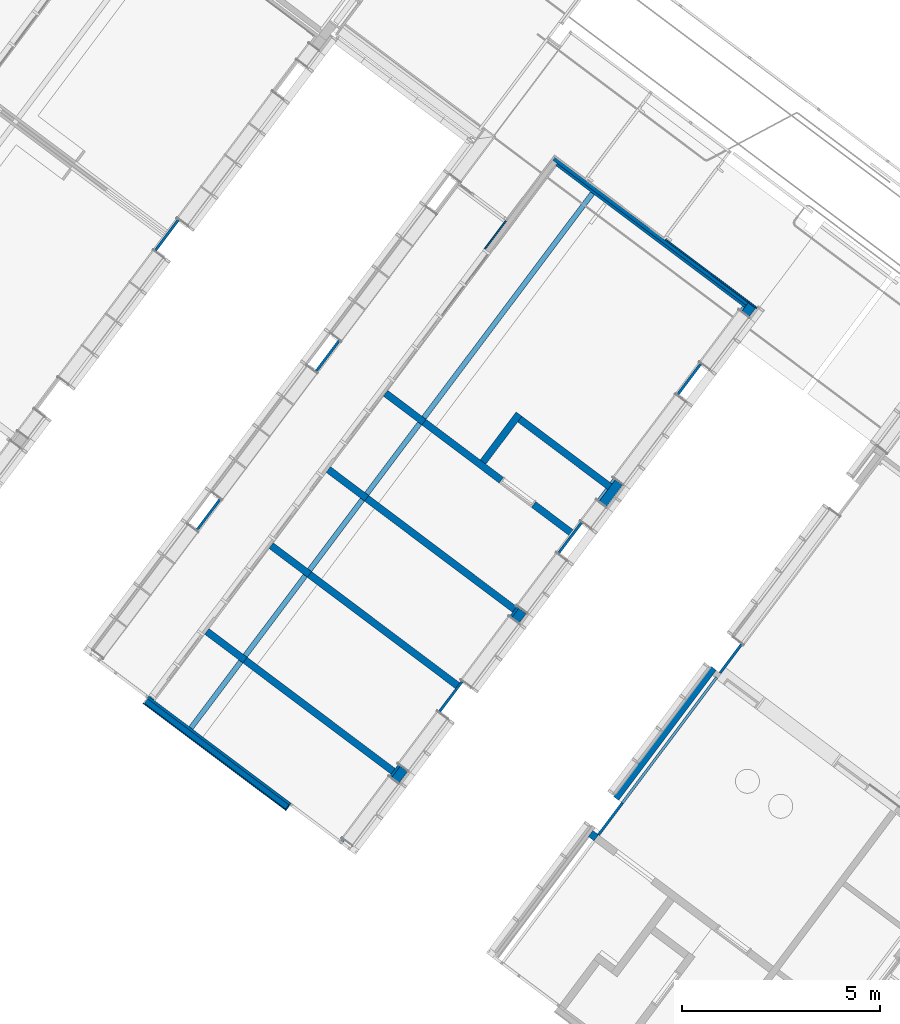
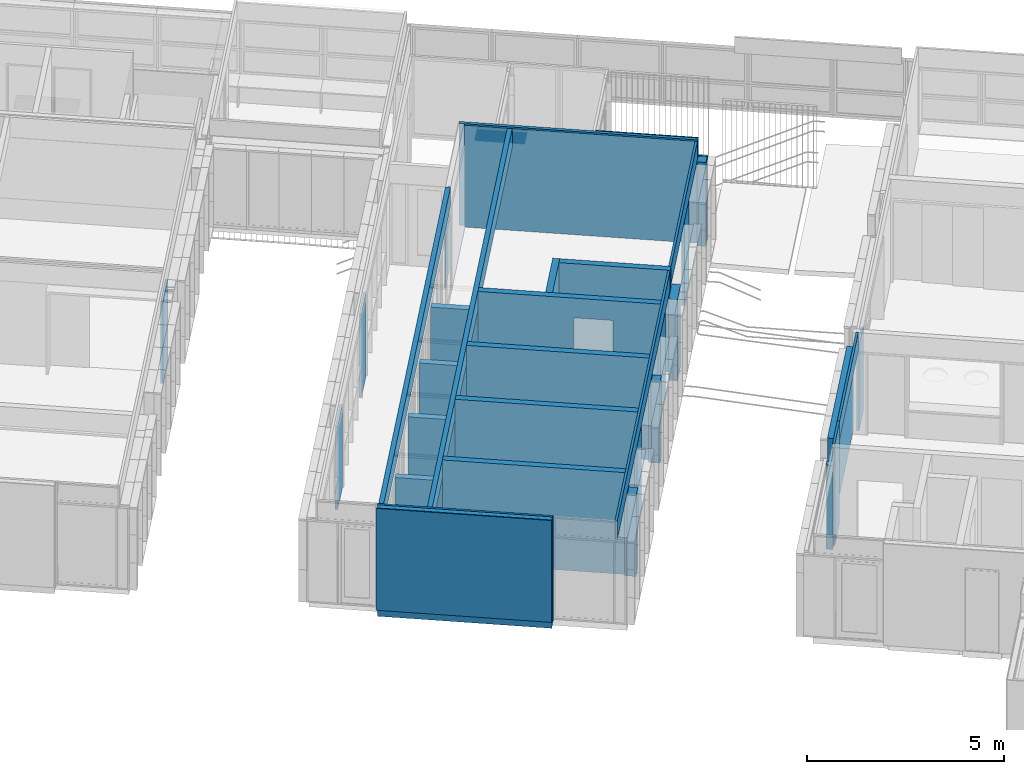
# One storey, part 122 of 243: 39 walls, 2 openings.
"""IFC2X3 building model written with IfcOpenShell, lengths in metres."""

from ifc_helpers import new_model, entity, si_unit, converted_unit, derived_unit, direction, frame, frame_2d, origin, place, context, subcontext, project, spatial, rectangle, extrude, material, layer, layer_set, layer_usage, type_object, element, save


model = new_model("IFC2X3")

# Units and contexts
model_context = context("Model", 3, precision=1e-05, world=origin(), true_north=direction((6.123031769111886e-17, 1.0)))
body_context = subcontext(model_context, "Body", "Model", "MODEL_VIEW")
ifc_project = project(units=[si_unit("LENGTHUNIT", "METRE"), si_unit("AREAUNIT", "SQUARE_METRE"), si_unit("VOLUMEUNIT", "CUBIC_METRE"), converted_unit("PLANEANGLEUNIT", "DEGREE", entity("IfcRatioMeasure", 0.017453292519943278), si_unit("PLANEANGLEUNIT", "RADIAN"), dimensions=[0, 0, 0, 0, 0, 0, 0]), si_unit("MASSUNIT", "GRAM", prefix="KILO"), derived_unit("MASSDENSITYUNIT", [(si_unit("MASSUNIT", "GRAM", prefix="KILO"), 1), (si_unit("LENGTHUNIT", "METRE"), -3)]), derived_unit("IONCONCENTRATIONUNIT", [(si_unit("MASSUNIT", "GRAM", prefix="KILO"), 1), (si_unit("LENGTHUNIT", "METRE"), -3)]), derived_unit("MOMENTOFINERTIAUNIT", [(si_unit("LENGTHUNIT", "METRE"), 4)]), si_unit("TIMEUNIT", "SECOND"), si_unit("FREQUENCYUNIT", "HERTZ"), si_unit("THERMODYNAMICTEMPERATUREUNIT", "DEGREE_CELSIUS"), derived_unit("THERMALTRANSMITTANCEUNIT", [(si_unit("MASSUNIT", "GRAM", prefix="KILO"), 1), (si_unit("THERMODYNAMICTEMPERATUREUNIT", "KELVIN"), -1), (si_unit("TIMEUNIT", "SECOND"), -3)]), derived_unit("THERMALCONDUCTANCEUNIT", [(si_unit("MASSUNIT", "GRAM", prefix="KILO"), 1), (si_unit("THERMODYNAMICTEMPERATUREUNIT", "KELVIN"), -1), (si_unit("TIMEUNIT", "SECOND"), -3), (si_unit("LENGTHUNIT", "METRE"), 1)]), derived_unit("VOLUMETRICFLOWRATEUNIT", [(si_unit("LENGTHUNIT", "METRE"), 3), (si_unit("TIMEUNIT", "SECOND"), -1)]), derived_unit("MASSFLOWRATEUNIT", [(si_unit("MASSUNIT", "GRAM", prefix="KILO"), 1), (si_unit("TIMEUNIT", "SECOND"), -1)]), derived_unit("ROTATIONALFREQUENCYUNIT", [(si_unit("TIMEUNIT", "SECOND"), -1)]), si_unit("ELECTRICCURRENTUNIT", "AMPERE"), si_unit("ELECTRICVOLTAGEUNIT", "VOLT"), si_unit("POWERUNIT", "WATT"), si_unit("FORCEUNIT", "NEWTON", prefix="KILO"), si_unit("ILLUMINANCEUNIT", "LUX"), si_unit("LUMINOUSFLUXUNIT", "LUMEN"), si_unit("LUMINOUSINTENSITYUNIT", "CANDELA"), derived_unit("USERDEFINED", [(si_unit("MASSUNIT", "GRAM", prefix="KILO"), -1), (si_unit("LENGTHUNIT", "METRE"), -2), (si_unit("TIMEUNIT", "SECOND"), 3), (si_unit("LUMINOUSFLUXUNIT", "LUMEN"), 1)]), derived_unit("USERDEFINED", [(si_unit("MASSUNIT", "GRAM", prefix="KILO"), 1), (si_unit("TIMEUNIT", "SECOND"), -3), (si_unit("LENGTHUNIT", "METRE"), 3), (si_unit("ELECTRICCURRENTUNIT", "AMPERE"), -2)]), derived_unit("SOUNDPOWERUNIT", [(si_unit("MASSUNIT", "GRAM", prefix="KILO"), 1), (si_unit("TIMEUNIT", "SECOND"), -3), (si_unit("LENGTHUNIT", "METRE"), 2)]), derived_unit("SOUNDPRESSUREUNIT", [(si_unit("MASSUNIT", "GRAM", prefix="KILO"), 1), (si_unit("LENGTHUNIT", "METRE"), -1), (si_unit("TIMEUNIT", "SECOND"), -2)]), derived_unit("LINEARVELOCITYUNIT", [(si_unit("LENGTHUNIT", "METRE"), 1), (si_unit("TIMEUNIT", "SECOND"), -1)]), si_unit("PRESSUREUNIT", "PASCAL"), derived_unit("USERDEFINED", [(si_unit("MASSUNIT", "GRAM", prefix="KILO"), 1), (si_unit("LENGTHUNIT", "METRE"), -2), (si_unit("TIMEUNIT", "SECOND"), -2)]), derived_unit("LINEARFORCEUNIT", [(si_unit("MASSUNIT", "GRAM", prefix="KILO"), 1), (si_unit("TIMEUNIT", "SECOND"), -2)]), derived_unit("PLANARFORCEUNIT", [(si_unit("MASSUNIT", "GRAM", prefix="KILO"), 1), (si_unit("LENGTHUNIT", "METRE"), -1), (si_unit("TIMEUNIT", "SECOND"), -2)]), derived_unit("SPECIFICHEATCAPACITYUNIT", [(si_unit("THERMODYNAMICTEMPERATUREUNIT", "KELVIN"), -1), (si_unit("LENGTHUNIT", "METRE"), 2), (si_unit("TIMEUNIT", "SECOND"), -2)]), derived_unit("HEATINGVALUEUNIT", [(si_unit("LENGTHUNIT", "METRE"), 2), (si_unit("TIMEUNIT", "SECOND"), -2)]), derived_unit("VAPORPERMEABILITYUNIT", [(si_unit("LENGTHUNIT", "METRE"), -1), (si_unit("TIMEUNIT", "SECOND"), 1)]), derived_unit("DYNAMICVISCOSITYUNIT", [(si_unit("MASSUNIT", "GRAM", prefix="KILO"), 1), (si_unit("TIMEUNIT", "SECOND"), -1), (si_unit("LENGTHUNIT", "METRE"), -1)]), derived_unit("THERMALEXPANSIONCOEFFICIENTUNIT", [(si_unit("THERMODYNAMICTEMPERATUREUNIT", "KELVIN"), -1)]), derived_unit("MODULUSOFELASTICITYUNIT", [(si_unit("MASSUNIT", "GRAM", prefix="KILO"), 1), (si_unit("LENGTHUNIT", "METRE"), -1), (si_unit("TIMEUNIT", "SECOND"), -2)]), derived_unit("ISOTHERMALMOISTURECAPACITYUNIT", [(si_unit("LENGTHUNIT", "METRE"), 3), (si_unit("MASSUNIT", "GRAM", prefix="KILO"), -1)]), derived_unit("MOISTUREDIFFUSIVITYUNIT", [(si_unit("TIMEUNIT", "SECOND"), -1), (si_unit("LENGTHUNIT", "METRE"), 2)])], contexts=[model_context])

# Site, building, storey
site_placement = place(None, frame((0.0, 0.0, 235.0), z_axis=(0.0, 0.0, 1.0), x_axis=(-0.7996477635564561, 0.6004693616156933, 0.0)))
site = spatial("IfcSite", under=ifc_project, at=site_placement, Name="Default", CompositionType="ELEMENT")
building_placement = place(site_placement, origin())
building = spatial("IfcBuilding", under=site, at=building_placement, CompositionType="ELEMENT")
storey_placement = place(building_placement, origin())
storey = spatial("IfcBuildingStorey", under=building, at=storey_placement, Name="P0- Escola", CompositionType="ELEMENT", Elevation=0.0)

# Walls
ifc_material_1 = material(Name="_Ceràmica- ENV")
ifc_layer_1 = layer(ifc_material_1, 0.14)
ifc_layer_set_1 = layer_set([ifc_layer_1], Name="Muro básico:ENV- Ceràmic- 14 cm")
ifc_layer_usage_1 = layer_usage(ifc_layer_set_1, "AXIS2", "NEGATIVE", 0.07)
wall_type_1 = type_object("IfcWallType", Name="Muro básico:ENV- Ceràmic- 14 cm", PredefinedType="STANDARD", material=ifc_layer_set_1)
wall_1_placement = place(storey_placement, frame((30.300143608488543, -20.21894175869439, -0.2)))
element("IfcWallStandardCase", 1, at=wall_1_placement, inside=storey, type_object=wall_type_1, material=ifc_layer_usage_1, Name="Muro básico:ENV- Ceràmic- 14 cm", ObjectType="Muro básico:ENV- Ceràmic- 14 cm", context=body_context, shape_type="SweptSolid", body=[
    extrude(rectangle(XDim=4.455004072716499, YDim=0.14000000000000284, at=frame_2d((2.2275020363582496, -1.1449174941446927e-15), x_axis=(-1.0, 0.0))), origin(), (0.0, 0.0, 1.0), 3.350000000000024),
])
ifc_layer_2 = layer(ifc_material_1, 0.09)
ifc_layer_set_2 = layer_set([ifc_layer_2], Name="Muro básico:ENV- Ceràmic- 9 cm")
ifc_layer_usage_2 = layer_usage(ifc_layer_set_2, "AXIS2", "NEGATIVE", 0.045)
wall_type_2 = type_object("IfcWallType", Name="Muro básico:ENV- Ceràmic- 9 cm", PredefinedType="STANDARD", material=ifc_layer_set_2)
wall_2_placement = place(storey_placement, frame((34.74514768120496, -37.31119175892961, 0.0), z_axis=(0.0, 0.0, 1.0), x_axis=(-1.0, 0.0, 0.0)))
element("IfcWallStandardCase", 2, at=wall_2_placement, inside=storey, type_object=wall_type_2, material=ifc_layer_usage_2, Name="Muro básico:ENV- Ceràmic- 9 cm", ObjectType="Muro básico:ENV- Ceràmic- 9 cm", context=body_context, shape_type="SweptSolid", body=[
    extrude(rectangle(XDim=6.100000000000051, YDim=0.08999999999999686, at=frame_2d((3.0500000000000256, -9.71445146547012e-17), x_axis=(-1.0, 0.0))), origin(), (0.0, 0.0, 1.0), 3.150000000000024),
])
ifc_material_2 = material(Name="_Fusta massisa- T1-  REV- PAV")
ifc_layer_3 = layer(ifc_material_2, 0.015)
ifc_material_3 = material(Name="_Genèric perfils, muntants, rastrells")
ifc_layer_4 = layer(ifc_material_3, 0.02)
ifc_layer_set_3 = layer_set([ifc_layer_3, ifc_layer_4], Name="Muro básico:REV- Fusta- T1- 3,5 cm")
ifc_layer_usage_3 = layer_usage(ifc_layer_set_3, "AXIS2", "NEGATIVE", 0.0175)
wall_type_3 = type_object("IfcWallType", Name="Muro básico:REV- Fusta- T1- 3,5 cm", PredefinedType="STANDARD", material=ifc_layer_set_3)
wall_3_placement = place(storey_placement, frame((34.76264768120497, -34.455191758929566, 0.0), z_axis=(0.0, 0.0, 1.0), x_axis=(0.0, -1.0, 0.0)))
element("IfcWallStandardCase", 3, at=wall_3_placement, inside=storey, type_object=wall_type_3, material=ifc_layer_usage_3, Name="Muro básico:REV- Fusta- T1- 3,5 cm", ObjectType="Muro básico:REV- Fusta- T1- 3,5 cm", context=body_context, shape_type="SweptSolid", body=[
    extrude(rectangle(XDim=0.8799999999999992, YDim=0.03500000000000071, at=frame_2d((0.4399999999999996, 5.464378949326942e-16), x_axis=(-1.0, 0.0))), origin(), (0.0, 0.0, 1.0), 2.5650000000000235),
])

# Wall, opening
ifc_material_4 = material(Name="_Guix laminat- ENV")
ifc_layer_5 = layer(ifc_material_4, 0.02)
ifc_material_5 = material(Name="_Aillament")
ifc_layer_6 = layer(ifc_material_5, 0.045)
ifc_layer_set_4 = layer_set([ifc_layer_5, ifc_layer_6], Name="Muro básico:REV- Guix Laminat Extradossat- Aillament- T1- 6,5 cm")
ifc_layer_usage_4 = layer_usage(ifc_layer_set_4, "AXIS2", "POSITIVE", -0.032499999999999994)
wall_type_4 = type_object("IfcWallType", Name="Muro básico:REV- Guix Laminat Extradossat- Aillament- T1- 6,5 cm", PredefinedType="STANDARD", material=ifc_layer_set_4)
wall_4_placement = place(storey_placement, frame((28.677647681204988, -37.20119175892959, 2.5826354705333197), z_axis=(0.0, 0.0, 1.0), x_axis=(0.0, 1.0, 0.0)))
wall_4 = element("IfcWallStandardCase", 4, at=wall_4_placement, inside=storey, type_object=wall_type_4, material=ifc_layer_usage_4, Name="Muro básico:REV- Guix Laminat Extradossat- Aillament- T1- 6,5 cm", ObjectType="Muro básico:REV- Guix Laminat Extradossat- Aillament- T1- 6,5 cm", context=body_context, shape_type="SweptSolid", body=[
    extrude(rectangle(XDim=16.866000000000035, YDim=0.06500000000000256, at=frame_2d((8.433000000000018, 0.0), x_axis=(-1.0, 0.0))), origin(), (0.0, 0.0, 1.0), 0.5673645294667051),
])
opening_1_placement = place(storey_placement, frame((28.677647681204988, -37.20119175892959, 2.5826354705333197), z_axis=(0.0, 0.0, 1.0), x_axis=(0.0, 1.0, 0.0)))
element("IfcOpeningElement", 5, at=opening_1_placement, cuts=wall_4, Name="Muro básico:REV- Guix Laminat Extradossat- Aillament- T1- 6,5 cm:1", ObjectType="Opening", context=body_context, shape_type="SweptSolid", body=[
    extrude(rectangle(XDim=0.5673645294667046, YDim=0.06499999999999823, at=frame_2d((2.7755575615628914e-16, 2.168404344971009e-15), x_axis=(1.0, 0.0))), frame((5.560999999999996, 0.0, 0.28368226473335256), z_axis=(1.0, 0.0, 0.0), x_axis=(0.0, 0.0, -1.0)), (0.0, 0.0, 1.0), 0.17999999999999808),
])

# Walls
ifc_layer_usage_5 = layer_usage(ifc_layer_set_4, "AXIS2", "NEGATIVE", 0.032499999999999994)
wall_5_placement = place(storey_placement, frame((28.677647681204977, -29.420191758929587, 0.0), z_axis=(0.0, 0.0, 1.0), x_axis=(0.0, -1.0, 0.0)))
element("IfcWallStandardCase", 6, at=wall_5_placement, inside=storey, type_object=wall_type_4, material=ifc_layer_usage_5, Name="Muro básico:REV- Guix Laminat Extradossat- Aillament- T1- 6,5 cm", ObjectType="Muro básico:REV- Guix Laminat Extradossat- Aillament- T1- 6,5 cm", context=body_context, shape_type="SweptSolid", body=[
    extrude(rectangle(XDim=0.9900000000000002, YDim=0.06500000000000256, at=frame_2d((0.4950000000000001, 0.0), x_axis=(-1.0, 0.0))), origin(), (0.0, 0.0, 1.0), 2.5826354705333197),
])
wall_6_placement = place(storey_placement, frame((23.612647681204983, -24.367191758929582, 0.0), z_axis=(0.0, 0.0, 1.0), x_axis=(0.0, -1.0, 0.0)))
element("IfcWallStandardCase", 7, at=wall_6_placement, inside=storey, type_object=wall_type_4, material=ifc_layer_usage_4, Name="Muro básico:REV- Guix Laminat Extradossat- Aillament- T1- 6,5 cm", ObjectType="Muro básico:REV- Guix Laminat Extradossat- Aillament- T1- 6,5 cm", context=body_context, shape_type="SweptSolid", body=[
    extrude(rectangle(XDim=0.9979999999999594, YDim=0.06500000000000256, at=frame_2d((0.4989999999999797, 0.0), x_axis=(-1.0, 0.0))), origin(), (0.0, 0.0, 1.0), 3.150000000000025),
])
wall_7_placement = place(storey_placement, frame((23.612647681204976, -30.365191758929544, 0.0), z_axis=(0.0, 0.0, 1.0), x_axis=(0.0, 1.0, 0.0)))
element("IfcWallStandardCase", 8, at=wall_7_placement, inside=storey, type_object=wall_type_4, material=ifc_layer_usage_5, Name="Muro básico:REV- Guix Laminat Extradossat- Aillament- T1- 6,5 cm", ObjectType="Muro básico:REV- Guix Laminat Extradossat- Aillament- T1- 6,5 cm", context=body_context, shape_type="SweptSolid", body=[
    extrude(rectangle(XDim=0.899999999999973, YDim=0.06500000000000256, at=frame_2d((0.4499999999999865, 0.0), x_axis=(-1.0, 0.0))), origin(), (0.0, 0.0, 1.0), 2.6),
])
wall_8_placement = place(storey_placement, frame((23.61264768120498, -29.325191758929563, 2.6), z_axis=(0.0, 0.0, 1.0), x_axis=(0.0, 1.0, 0.0)))
element("IfcWallStandardCase", 9, at=wall_8_placement, inside=storey, type_object=wall_type_4, material=ifc_layer_usage_5, Name="Muro básico:REV- Guix Laminat Extradossat- Aillament- T1- 6,5 cm", ObjectType="Muro básico:REV- Guix Laminat Extradossat- Aillament- T1- 6,5 cm", context=body_context, shape_type="SweptSolid", body=[
    extrude(rectangle(XDim=3.9600000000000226, YDim=0.06500000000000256, at=frame_2d((1.9800000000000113, 0.0), x_axis=(-1.0, 0.0))), origin(), (0.0, 0.0, 1.0), 0.5500000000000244),
])
wall_9_placement = place(storey_placement, frame((41.3776476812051, -29.42019175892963, 0.0), z_axis=(0.0, 0.0, 1.0), x_axis=(0.0, -1.0, 0.0)))
element("IfcWallStandardCase", 10, at=wall_9_placement, inside=storey, type_object=wall_type_4, material=ifc_layer_usage_5, Name="Muro básico:REV- Guix Laminat Extradossat- Aillament- T1- 6,5 cm", ObjectType="Muro básico:REV- Guix Laminat Extradossat- Aillament- T1- 6,5 cm", context=body_context, shape_type="SweptSolid", body=[
    extrude(rectangle(XDim=0.9900000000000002, YDim=0.06500000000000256, at=frame_2d((0.4950000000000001, -1.4467593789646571e-15), x_axis=(-1.0, 0.0))), origin(), (0.0, 0.0, 1.0), 2.535000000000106),
])
for number, where, z_axis, x_axis, name in (
    (11, (36.31264768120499, -24.420191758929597, 0.0), (0.0, 0.0, 1.0), (0.0, -1.0, 0.0), "Muro básico:REV- Guix Laminat Extradossat- Aillament- T1- 6,5 cm"),
    (12, (36.312647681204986, -29.420191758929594, 0.0), (0.0, 0.0, 1.0), (0.0, -1.0, 0.0), "Muro básico:REV- Guix Laminat Extradossat- Aillament- T1- 6,5 cm"),
):
    element("IfcWallStandardCase", number, at=place(storey_placement, frame(where, z_axis=z_axis, x_axis=x_axis)), inside=storey, type_object=wall_type_4, material=ifc_layer_usage_4, Name=name, ObjectType="Muro básico:REV- Guix Laminat Extradossat- Aillament- T1- 6,5 cm", context=body_context, shape_type="SweptSolid", body=[
        extrude(rectangle(XDim=0.9900000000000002, YDim=0.06500000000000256, at=frame_2d((0.4950000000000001, 7.181755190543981e-16), x_axis=(-1.0, 0.0))), origin(), (0.0, 0.0, 1.0), 2.565),
    ])
wall_10_placement = place(storey_placement, frame((28.677647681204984, -27.729191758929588, 0.0), z_axis=(0.0, 0.0, 1.0), x_axis=(0.0, 1.0, 0.0)))
element("IfcWallStandardCase", 13, at=wall_10_placement, inside=storey, type_object=wall_type_4, material=ifc_layer_usage_4, Name="Muro básico:REV- Guix Laminat Extradossat- Aillament- T1- 6,5 cm", ObjectType="Muro básico:REV- Guix Laminat Extradossat- Aillament- T1- 6,5 cm", context=body_context, shape_type="SweptSolid", body=[
    extrude(rectangle(XDim=0.2939999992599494, YDim=0.06500000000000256, at=frame_2d((0.1469999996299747, 0.0), x_axis=(-1.0, 0.0))), origin(), (0.0, 0.0, 1.0), 2.5826354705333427),
])
wall_11_placement = place(storey_placement, frame((28.677647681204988, -25.395191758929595, 0.0), z_axis=(0.0, 0.0, 1.0), x_axis=(0.0, 1.0, 0.0)))
element("IfcWallStandardCase", 14, at=wall_11_placement, inside=storey, type_object=wall_type_4, material=ifc_layer_usage_4, Name="Muro básico:REV- Guix Laminat Extradossat- Aillament- T1- 6,5 cm", ObjectType="Muro básico:REV- Guix Laminat Extradossat- Aillament- T1- 6,5 cm", context=body_context, shape_type="SweptSolid", body=[
    extrude(rectangle(XDim=0.9600000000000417, YDim=0.06500000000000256, at=frame_2d((0.48000000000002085, 0.0), x_axis=(-1.0, 0.0))), origin(), (0.0, 0.0, 1.0), 2.5826354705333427),
])
wall_12_placement = place(storey_placement, frame((30.275143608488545, -20.321441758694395, 0.0)))
element("IfcWallStandardCase", 15, at=wall_12_placement, inside=storey, type_object=wall_type_4, material=ifc_layer_usage_4, Name="Muro básico:REV- Guix Laminat Extradossat- Aillament- T1- 6,5 cm", ObjectType="Muro básico:REV- Guix Laminat Extradossat- Aillament- T1- 6,5 cm", context=body_context, shape_type="SweptSolid", body=[
    extrude(rectangle(XDim=4.505004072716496, YDim=0.06500000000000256, at=frame_2d((2.252502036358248, 4.163336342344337e-17), x_axis=(-1.0, 0.0))), origin(), (0.0, 0.0, 1.0), 3.150000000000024),
])
wall_13_placement = place(storey_placement, frame((28.677647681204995, -22.750191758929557, 0.0), z_axis=(0.0, 0.0, 1.0), x_axis=(0.0, 1.0, 0.0)))
element("IfcWallStandardCase", 16, at=wall_13_placement, inside=storey, type_object=wall_type_4, material=ifc_layer_usage_4, Name="Muro básico:REV- Guix Laminat Extradossat- Aillament- T1- 6,5 cm", ObjectType="Muro básico:REV- Guix Laminat Extradossat- Aillament- T1- 6,5 cm", context=body_context, shape_type="SweptSolid", body=[
    extrude(rectangle(XDim=0.35499999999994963, YDim=0.06500000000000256, at=frame_2d((0.17749999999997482, 0.0), x_axis=(-1.0, 0.0))), origin(), (0.0, 0.0, 1.0), 2.5826354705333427),
])
wall_14_placement = place(storey_placement, frame((28.677647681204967, -34.420191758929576, 0.0), z_axis=(0.0, 0.0, 1.0), x_axis=(0.0, -1.0, 0.0)))
element("IfcWallStandardCase", 17, at=wall_14_placement, inside=storey, type_object=wall_type_4, material=ifc_layer_usage_5, Name="Muro básico:REV- Guix Laminat Extradossat- Aillament- T1- 6,5 cm", ObjectType="Muro básico:REV- Guix Laminat Extradossat- Aillament- T1- 6,5 cm", context=body_context, shape_type="SweptSolid", body=[
    extrude(rectangle(XDim=0.9900000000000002, YDim=0.06500000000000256, at=frame_2d((0.4950000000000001, 0.0), x_axis=(-1.0, 0.0))), origin(), (0.0, 0.0, 1.0), 2.5826354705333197),
])
ifc_layer_7 = layer(ifc_material_1, 0.23)
ifc_layer_set_5 = layer_set([ifc_layer_7], Name="Muro básico:ENV- Ceràmic Replè- 23 cm")
ifc_layer_usage_6 = layer_usage(ifc_layer_set_5, "AXIS2", "POSITIVE", -0.115)
wall_type_5 = type_object("IfcWallType", Name="Muro básico:ENV- Ceràmic Replè- 23 cm", PredefinedType="STANDARD", material=ifc_layer_set_5)
wall_15_placement = place(storey_placement, frame((28.53014768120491, -37.0841917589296, 0.0), z_axis=(0.0, 0.0, 1.0), x_axis=(0.0, -1.0, 0.0)))
element("IfcWallStandardCase", 18, at=wall_15_placement, inside=storey, type_object=wall_type_5, material=ifc_layer_usage_6, Name="Muro básico:ENV- Ceràmic Replè- 23 cm", ObjectType="Muro básico:ENV- Ceràmic Replè- 23 cm", context=body_context, shape_type="SweptSolid", body=[
    extrude(rectangle(XDim=0.27199999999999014, YDim=0.2299999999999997, at=frame_2d((0.13599999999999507, 0.0), x_axis=(-1.0, 0.0))), origin(), (0.0, 0.0, 1.0), 2.6000000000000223),
])
wall_16_placement = place(storey_placement, frame((28.530147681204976, -31.100191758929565, 0.0), z_axis=(0.0, 0.0, 1.0), x_axis=(0.0, -1.0, 0.0)))
element("IfcWallStandardCase", 19, at=wall_16_placement, inside=storey, type_object=wall_type_5, material=ifc_layer_usage_6, Name="Muro básico:ENV- Ceràmic Replè- 23 cm", ObjectType="Muro básico:ENV- Ceràmic Replè- 23 cm", context=body_context, shape_type="SweptSolid", body=[
    extrude(rectangle(XDim=0.6734999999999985, YDim=0.2299999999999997, at=frame_2d((0.33674999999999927, 0.0), x_axis=(-1.0, 0.0))), origin(), (0.0, 0.0, 1.0), 2.514054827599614),
])
wall_17_placement = place(storey_placement, frame((28.530147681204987, -27.43519175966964, 0.0), z_axis=(0.0, 0.0, 1.0), x_axis=(0.0, -1.0, 0.0)))
element("IfcWallStandardCase", 20, at=wall_17_placement, inside=storey, type_object=wall_type_5, material=ifc_layer_usage_6, Name="Muro básico:ENV- Ceràmic Replè- 23 cm", ObjectType="Muro básico:ENV- Ceràmic Replè- 23 cm", context=body_context, shape_type="SweptSolid", body=[
    extrude(rectangle(XDim=0.2939999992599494, YDim=0.2299999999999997, at=frame_2d((0.1469999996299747, 0.0), x_axis=(-1.0, 0.0))), origin(), (0.0, 0.0, 1.0), 2.514054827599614),
])
wall_18_placement = place(storey_placement, frame((28.530147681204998, -22.395191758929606, 0.0), z_axis=(0.0, 0.0, 1.0), x_axis=(0.0, -1.0, 0.0)))
element("IfcWallStandardCase", 21, at=wall_18_placement, inside=storey, type_object=wall_type_5, material=ifc_layer_usage_6, Name="Muro básico:ENV- Ceràmic Replè- 23 cm", ObjectType="Muro básico:ENV- Ceràmic Replè- 23 cm", context=body_context, shape_type="SweptSolid", body=[
    extrude(rectangle(XDim=0.35499999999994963, YDim=0.2299999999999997, at=frame_2d((0.17749999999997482, 0.0), x_axis=(-1.0, 0.0))), origin(), (0.0, 0.0, 1.0), 2.514054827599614),
])
ifc_layer_8 = layer(ifc_material_4, 0.015)
ifc_layer_9 = layer(ifc_material_3, 0.05)
ifc_layer_set_6 = layer_set([ifc_layer_8, ifc_layer_9], Name="Muro básico:REV- Guix Laminat Extradossat- T1- 6,5 cm")
ifc_layer_usage_7 = layer_usage(ifc_layer_set_6, "AXIS2", "POSITIVE", -0.0325)
wall_type_6 = type_object("IfcWallType", Name="Muro básico:REV- Guix Laminat Extradossat- T1- 6,5 cm", PredefinedType="STANDARD", material=ifc_layer_set_6)
wall_19_placement = place(storey_placement, frame((34.597647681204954, -37.23369175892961, 0.0), z_axis=(0.0, 0.0, 1.0), x_axis=(-1.0, 0.0, 0.0)))
element("IfcWallStandardCase", 22, at=wall_19_placement, inside=storey, type_object=wall_type_6, material=ifc_layer_usage_7, Name="Muro básico:REV- Guix Laminat Extradossat- T1- 6,5 cm", ObjectType="Muro básico:REV- Guix Laminat Extradossat- T1- 6,5 cm", context=body_context, shape_type="SweptSolid", body=[
    extrude(rectangle(XDim=5.952500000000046, YDim=0.06500000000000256, at=frame_2d((2.976250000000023, 8.881784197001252e-16), x_axis=(-1.0, 0.0))), origin(), (0.0, 0.0, 1.0), 3.150000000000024),
])
ifc_layer_10 = layer(ifc_material_4, 0.03)
ifc_layer_11 = layer(ifc_material_3, 0.07)
ifc_layer_12 = layer(ifc_material_4, 0.03)
ifc_layer_set_7 = layer_set([ifc_layer_10, ifc_layer_11, ifc_layer_12], Name="Muro básico:ENV- Guix Laminat- 13 cm")
ifc_layer_usage_8 = layer_usage(ifc_layer_set_7, "AXIS2", "NEGATIVE", 0.06499999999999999)
wall_type_7 = type_object("IfcWallType", Name="Muro básico:ENV- Guix Laminat- 13 cm", PredefinedType="STANDARD", material=ifc_layer_set_7)
wall_20_placement = place(storey_placement, frame((34.680147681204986, -20.302691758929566, 2.565), z_axis=(0.0, 0.0, 1.0), x_axis=(0.0, -1.0, 0.0)))
element("IfcWallStandardCase", 23, at=wall_20_placement, inside=storey, type_object=wall_type_7, material=ifc_layer_usage_8, Name="Muro básico:ENV- Guix Laminat- 13 cm", ObjectType="Muro básico:ENV- Guix Laminat- 13 cm", context=body_context, shape_type="SweptSolid", body=[
    extrude(rectangle(XDim=14.142500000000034, YDim=0.12999999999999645, at=frame_2d((7.071250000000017, -2.0816681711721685e-17), x_axis=(-1.0, 0.0))), origin(), (0.0, 0.0, 1.0), 0.5850000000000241),
])
wall_21_placement = place(storey_placement, frame((33.43814768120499, -20.3539417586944, 2.5649999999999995), z_axis=(0.0, 0.0, 1.0), x_axis=(0.0, -1.0, 0.0)))
element("IfcWallStandardCase", 24, at=wall_21_placement, inside=storey, type_object=wall_type_7, material=ifc_layer_usage_8, Name="Muro básico:ENV- Guix Laminat- 13 cm", ObjectType="Muro básico:ENV- Guix Laminat- 13 cm", context=body_context, shape_type="SweptSolid", body=[
    extrude(rectangle(XDim=16.847250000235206, YDim=0.12999999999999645, at=frame_2d((8.423625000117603, -1.3183898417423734e-16), x_axis=(-1.0, 0.0))), origin(), (0.0, 0.0, 1.0), 0.5850000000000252),
])
ifc_layer_13 = layer(ifc_material_4, 0.03)
ifc_layer_14 = layer(ifc_material_3, 0.055)
ifc_layer_15 = layer(ifc_material_4, 0.015)
ifc_layer_16 = layer(ifc_material_3, 0.05)
ifc_layer_17 = layer(ifc_material_4, 0.03)
ifc_layer_set_8 = layer_set([ifc_layer_13, ifc_layer_14, ifc_layer_15, ifc_layer_16, ifc_layer_17], Name="Muro básico:ENV- Guix Laminat- 18 cm")
ifc_layer_usage_9 = layer_usage(ifc_layer_set_8, "AXIS2", "NEGATIVE", 0.09)
wall_type_8 = type_object("IfcWallType", Name="Muro básico:ENV- Guix Laminat- 18 cm", PredefinedType="STANDARD", material=ifc_layer_set_8)
wall_22_placement = place(storey_placement, frame((34.580147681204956, -30.04019175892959, 0.0), z_axis=(0.0, 0.0, 1.0), x_axis=(-1.0, 0.0, 0.0)))
element("IfcWallStandardCase", 25, at=wall_22_placement, inside=storey, type_object=wall_type_8, material=ifc_layer_usage_9, Name="Muro básico:ENV- Guix Laminat- 18 cm", ObjectType="Muro básico:ENV- Guix Laminat- 18 cm", context=body_context, shape_type="SweptSolid", body=[
    extrude(rectangle(XDim=1.2069999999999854, YDim=0.1800000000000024, at=frame_2d((0.6034999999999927, 0.0), x_axis=(-1.0, 0.0))), origin(), (0.0, 0.0, 1.0), 2.5649999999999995),
])
wall_23_placement = place(storey_placement, frame((31.577147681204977, -30.130191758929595, 0.0), z_axis=(0.0, 0.0, 1.0), x_axis=(0.0, -1.0, 0.0)))
element("IfcWallStandardCase", 26, at=wall_23_placement, inside=storey, type_object=wall_type_8, material=ifc_layer_usage_9, Name="Muro básico:ENV- Guix Laminat- 18 cm", ObjectType="Muro básico:ENV- Guix Laminat- 18 cm", context=body_context, shape_type="SweptSolid", body=[
    extrude(rectangle(XDim=1.509999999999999, YDim=0.1800000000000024, at=frame_2d((0.7549999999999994, 0.0), x_axis=(-1.0, 0.0))), origin(), (0.0, 0.0, 1.0), 3.150000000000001),
])
wall_24_placement = place(storey_placement, frame((31.487147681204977, -31.550191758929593, 0.0), z_axis=(0.0, 0.0, 1.0), x_axis=(-1.0, 0.0, 0.0)))
element("IfcWallStandardCase", 27, at=wall_24_placement, inside=storey, type_object=wall_type_8, material=ifc_layer_usage_9, Name="Muro básico:ENV- Guix Laminat- 18 cm", ObjectType="Muro básico:ENV- Guix Laminat- 18 cm", context=body_context, shape_type="SweptSolid", body=[
    extrude(rectangle(XDim=2.8420000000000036, YDim=0.1800000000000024, at=frame_2d((1.4210000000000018, 0.0), x_axis=(-1.0, 0.0))), origin(), (0.0, 0.0, 1.0), 3.150000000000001),
])
wall_25_placement = place(storey_placement, frame((34.58014768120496, -27.639191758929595, 0.0), z_axis=(0.0, 0.0, 1.0), x_axis=(-1.0, 0.0, 0.0)))
element("IfcWallStandardCase", 28, at=wall_25_placement, inside=storey, type_object=wall_type_8, material=ifc_layer_usage_9, Name="Muro básico:ENV- Guix Laminat- 18 cm", ObjectType="Muro básico:ENV- Guix Laminat- 18 cm", context=body_context, shape_type="SweptSolid", body=[
    extrude(rectangle(XDim=1.2069999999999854, YDim=0.1800000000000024, at=frame_2d((0.6034999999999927, 0.0), x_axis=(-1.0, 0.0))), origin(), (0.0, 0.0, 1.0), 2.505000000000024),
])
wall_26_placement = place(storey_placement, frame((34.58014768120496, -25.24019175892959, 0.0), z_axis=(0.0, 0.0, 1.0), x_axis=(-1.0, 0.0, 0.0)))
element("IfcWallStandardCase", 29, at=wall_26_placement, inside=storey, type_object=wall_type_8, material=ifc_layer_usage_9, Name="Muro básico:ENV- Guix Laminat- 18 cm", ObjectType="Muro básico:ENV- Guix Laminat- 18 cm", context=body_context, shape_type="SweptSolid", body=[
    extrude(rectangle(XDim=1.2069999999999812, YDim=0.1800000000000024, at=frame_2d((0.6034999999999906, 0.0), x_axis=(-1.0, 0.0))), origin(), (0.0, 0.0, 1.0), 2.505000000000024),
])
wall_27_placement = place(storey_placement, frame((34.58014768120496, -22.540191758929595, 0.0), z_axis=(0.0, 0.0, 1.0), x_axis=(-1.0, 0.0, 0.0)))
element("IfcWallStandardCase", 30, at=wall_27_placement, inside=storey, type_object=wall_type_8, material=ifc_layer_usage_9, Name="Muro básico:ENV- Guix Laminat- 18 cm", ObjectType="Muro básico:ENV- Guix Laminat- 18 cm", context=body_context, shape_type="SweptSolid", body=[
    extrude(rectangle(XDim=1.2069999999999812, YDim=0.1800000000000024, at=frame_2d((0.6034999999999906, 0.0), x_axis=(-1.0, 0.0))), origin(), (0.0, 0.0, 1.0), 2.5049999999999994),
])
wall_28_placement = place(storey_placement, frame((33.373147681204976, -27.639191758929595, 0.0), z_axis=(0.0, 0.0, 1.0), x_axis=(-1.0, 0.0, 0.0)))
element("IfcWallStandardCase", 31, at=wall_28_placement, inside=storey, type_object=wall_type_8, material=ifc_layer_usage_9, Name="Muro básico:ENV- Guix Laminat- 18 cm", ObjectType="Muro básico:ENV- Guix Laminat- 18 cm", context=body_context, shape_type="SweptSolid", body=[
    extrude(rectangle(XDim=4.662999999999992, YDim=0.1800000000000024, at=frame_2d((2.331499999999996, 0.0), x_axis=(-1.0, 0.0))), origin(), (0.0, 0.0, 1.0), 3.150000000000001),
])
wall_29_placement = place(storey_placement, frame((33.373147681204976, -25.24019175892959, 0.0), z_axis=(0.0, 0.0, 1.0), x_axis=(-1.0, 0.0, 0.0)))
element("IfcWallStandardCase", 32, at=wall_29_placement, inside=storey, type_object=wall_type_8, material=ifc_layer_usage_9, Name="Muro básico:ENV- Guix Laminat- 18 cm", ObjectType="Muro básico:ENV- Guix Laminat- 18 cm", context=body_context, shape_type="SweptSolid", body=[
    extrude(rectangle(XDim=4.663000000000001, YDim=0.1800000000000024, at=frame_2d((2.3315000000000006, 0.0), x_axis=(-1.0, 0.0))), origin(), (0.0, 0.0, 1.0), 3.150000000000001),
])
wall_30_placement = place(storey_placement, frame((33.37314768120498, -22.540191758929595, 0.0), z_axis=(0.0, 0.0, 1.0), x_axis=(-1.0, 0.0, 0.0)))
element("IfcWallStandardCase", 33, at=wall_30_placement, inside=storey, type_object=wall_type_8, material=ifc_layer_usage_9, Name="Muro básico:ENV- Guix Laminat- 18 cm", ObjectType="Muro básico:ENV- Guix Laminat- 18 cm", context=body_context, shape_type="SweptSolid", body=[
    extrude(rectangle(XDim=4.662999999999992, YDim=0.1800000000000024, at=frame_2d((2.331499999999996, 0.0), x_axis=(-1.0, 0.0))), origin(), (0.0, 0.0, 1.0), 3.150000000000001),
])

# Wall, opening
wall_31_placement = place(storey_placement, frame((33.37314768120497, -30.04019175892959, 0.0), z_axis=(0.0, 0.0, 1.0), x_axis=(-1.0, 0.0, 0.0)))
wall_31 = element("IfcWallStandardCase", 34, at=wall_31_placement, inside=storey, type_object=wall_type_8, material=ifc_layer_usage_9, Name="Muro básico:ENV- Guix Laminat- 18 cm", ObjectType="Muro básico:ENV- Guix Laminat- 18 cm", context=body_context, shape_type="SweptSolid", body=[
    extrude(rectangle(XDim=4.662999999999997, YDim=0.1800000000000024, at=frame_2d((2.3314999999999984, 0.0), x_axis=(-1.0, 0.0))), origin(), (0.0, 0.0, 1.0), 3.150000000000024),
])
opening_2_placement = place(wall_31_placement, frame((3.4559999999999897, 0.09000000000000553, 0.0)))
element("IfcOpeningElement", 35, at=opening_2_placement, cuts=wall_31, Name="FUS- Porta Fusta- marc ocult- obertura exterior:FUS- Porta Fusta- marc ocult- 90x250,5 cm:1", ObjectType="Opening", context=body_context, shape_type="SweptSolid", body=[
    extrude(rectangle(XDim=2.544999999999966, YDim=1.0199999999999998, at=frame_2d((1.272499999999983, 0.5099999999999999), x_axis=(1.0, 0.0))), frame((0.0, 0.0, 0.0), z_axis=(0.0, -1.0, 0.0), x_axis=(0.0, 0.0, 1.0)), (0.0, 0.0, 1.0), 0.18),
])

# Walls
ifc_material_6 = material(Name="_Enrajolat Gresite- REV- PAV")
ifc_layer_18 = layer(ifc_material_6, 0.01)
ifc_material_7 = material(Name="_Morter Base - REV")
ifc_layer_19 = layer(ifc_material_7, 0.015)
ifc_layer_set_9 = layer_set([ifc_layer_18, ifc_layer_19], Name="Muro básico:REV- Enrajolat peces pasta vitrea- T1- int- 2,5 cm")
ifc_layer_usage_10 = layer_usage(ifc_layer_set_9, "AXIS2", "NEGATIVE", 0.0125)
wall_type_9 = type_object("IfcWallType", Name="Muro básico:REV- Enrajolat peces pasta vitrea- T1- int- 2,5 cm", PredefinedType="STANDARD", material=ifc_layer_set_9)
wall_32_placement = place(storey_placement, frame((30.287643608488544, -20.288941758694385, 0.0), z_axis=(0.0, 0.0, 1.0), x_axis=(0.0, 1.0, 0.0)))
element("IfcWallStandardCase", 36, at=wall_32_placement, inside=storey, type_object=wall_type_9, material=ifc_layer_usage_10, Name="Muro básico:REV- Enrajolat peces pasta vitrea- T1- int- 2,5 cm", ObjectType="Muro básico:REV- Enrajolat peces pasta vitrea- T1- int- 2,5 cm", context=body_context, shape_type="SweptSolid", body=[
    extrude(rectangle(XDim=0.16500000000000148, YDim=0.025000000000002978, at=frame_2d((0.08250000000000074, 0.0), x_axis=(-1.0, 0.0))), origin(), (0.0, 0.0, 1.0), 3.150000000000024),
])
wall_33_placement = place(storey_placement, frame((30.300143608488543, -20.136441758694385, 0.0)))
element("IfcWallStandardCase", 37, at=wall_33_placement, inside=storey, type_object=wall_type_9, material=ifc_layer_usage_10, Name="Muro básico:REV- Enrajolat peces pasta vitrea- T1- int- 2,5 cm", ObjectType="Muro básico:REV- Enrajolat peces pasta vitrea- T1- int- 2,5 cm", context=body_context, shape_type="SweptSolid", body=[
    extrude(rectangle(XDim=4.480004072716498, YDim=0.025000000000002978, at=frame_2d((2.240002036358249, 6.591949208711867e-17), x_axis=(-1.0, 0.0))), origin(), (0.0, 0.0, 1.0), 3.150000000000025),
])
ifc_layer_20 = layer(ifc_material_6, 0.01)
ifc_layer_21 = layer(ifc_material_7, 0.015)
ifc_layer_22 = layer(ifc_material_1, 0.14)
ifc_layer_23 = layer(ifc_material_7, 0.015)
ifc_layer_24 = layer(ifc_material_6, 0.01)
ifc_layer_set_10 = layer_set([ifc_layer_20, ifc_layer_21, ifc_layer_22, ifc_layer_23, ifc_layer_24], Name="Muro básico:ENV- REV- Ceràmic- 14 cm + peces pasta vitrea 2 caras")
ifc_layer_usage_11 = layer_usage(ifc_layer_set_10, "AXIS2", "NEGATIVE", 0.09499999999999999)
wall_type_10 = type_object("IfcWallType", Name="Muro básico:ENV- REV- Ceràmic- 14 cm + peces pasta vitrea 2 caras", PredefinedType="STANDARD", material=ifc_layer_set_10)
wall_34_placement = place(storey_placement, frame((23.612647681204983, -24.272191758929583, 0.0)))
element("IfcWallStandardCase", 38, at=wall_34_placement, inside=storey, type_object=wall_type_10, material=ifc_layer_usage_11, Name="Muro básico:ENV- REV- Ceràmic- 14 cm + peces pasta vitrea 2 caras", ObjectType="Muro básico:ENV- REV- Ceràmic- 14 cm + peces pasta vitrea 2 caras", context=body_context, shape_type="SweptSolid", body=[
    extrude(rectangle(XDim=0.17749999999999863, YDim=0.1900000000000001, at=frame_2d((0.08874999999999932, 3.400058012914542e-16), x_axis=(-1.0, 0.0))), origin(), (0.0, 0.0, 1.0), 2.6),
])
ifc_layer_25 = layer(ifc_material_6, 0.01)
ifc_layer_26 = layer(ifc_material_7, 0.015)
ifc_layer_27 = layer(ifc_material_1, 0.14)
ifc_layer_set_11 = layer_set([ifc_layer_25, ifc_layer_26, ifc_layer_27], Name="Muro básico:ENV- REV- Ceràmic- 14 cm + peces pasta vitrea")
ifc_layer_usage_12 = layer_usage(ifc_layer_set_11, "AXIS2", "NEGATIVE", 0.08249999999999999)
wall_type_11 = type_object("IfcWallType", Name="Muro básico:ENV- REV- Ceràmic- 14 cm + peces pasta vitrea", PredefinedType="STANDARD", material=ifc_layer_set_11)
wall_35_placement = place(storey_placement, frame((23.812647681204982, -29.46519175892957, 0.0), z_axis=(0.0, 0.0, 1.0), x_axis=(0.0, 1.0, 0.0)))
element("IfcWallStandardCase", 39, at=wall_35_placement, inside=storey, type_object=wall_type_11, material=ifc_layer_usage_12, Name="Muro básico:ENV- REV- Ceràmic- 14 cm + peces pasta vitrea", ObjectType="Muro básico:ENV- REV- Ceràmic- 14 cm + peces pasta vitrea", context=body_context, shape_type="SweptSolid", body=[
    extrude(rectangle(XDim=4.10000000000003, YDim=0.16499999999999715, at=frame_2d((2.050000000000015, 6.938893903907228e-17), x_axis=(-1.0, 0.0))), origin(), (0.0, 0.0, 1.0), 2.600000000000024),
])
ifc_material_8 = material(Name="_HPL- T1- REV")
ifc_layer_28 = layer(ifc_material_8, 0.015)
ifc_layer_29 = layer(ifc_material_3, 0.02)
ifc_layer_set_12 = layer_set([ifc_layer_28, ifc_layer_29], Name="Muro básico:REV- Resines fenòloques- T1- 3,5 cm 2")
ifc_layer_usage_13 = layer_usage(ifc_layer_set_12, "AXIS2", "NEGATIVE", 0.0175)
wall_type_12 = type_object("IfcWallType", Name="Muro básico:REV- Resines fenòloques- T1- 3,5 cm 2", PredefinedType="STANDARD", material=ifc_layer_set_12)
wall_36_placement = place(storey_placement, frame((31.266147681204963, -37.373691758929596, 0.0), z_axis=(0.0, 0.0, 1.0), x_axis=(-1.0, 0.0, 0.0)))
element("IfcWallStandardCase", 40, at=wall_36_placement, inside=storey, type_object=wall_type_12, material=ifc_layer_usage_13, Name="Muro básico:REV- Resines fenòloques- T1- 3,5 cm 2", ObjectType="Muro básico:REV- Resines fenòloques- T1- 3,5 cm 2", context=body_context, shape_type="SweptSolid", body=[
    extrude(rectangle(XDim=2.6209999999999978, YDim=0.035000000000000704, at=frame_2d((1.3104999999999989, 0.0), x_axis=(-1.0, 0.0))), origin(), (0.0, 0.0, 1.0), 3.150000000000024),
])
wall_37_placement = place(storey_placement, frame((28.645147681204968, -37.37369175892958, 0.0), z_axis=(0.0, 0.0, 1.0), x_axis=(-1.0, 0.0, 0.0)))
element("IfcWallStandardCase", 41, at=wall_37_placement, inside=storey, type_object=wall_type_12, material=ifc_layer_usage_13, Name="Muro básico:REV- Resines fenòloques- T1- 3,5 cm 2", ObjectType="Muro básico:REV- Resines fenòloques- T1- 3,5 cm 2", context=body_context, shape_type="SweptSolid", body=[
    extrude(rectangle(XDim=0.2500000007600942, YDim=0.035000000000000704, at=frame_2d((0.1250000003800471, 0.0), x_axis=(-1.0, 0.0))), origin(), (0.0, 0.0, 1.0), 2.600000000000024),
])

save(model, "model.ifc")
